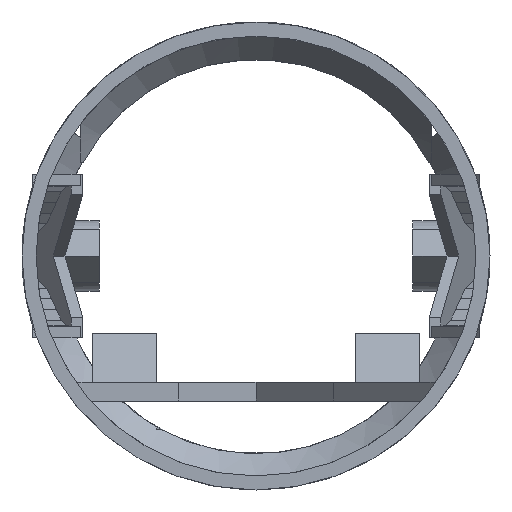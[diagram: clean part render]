
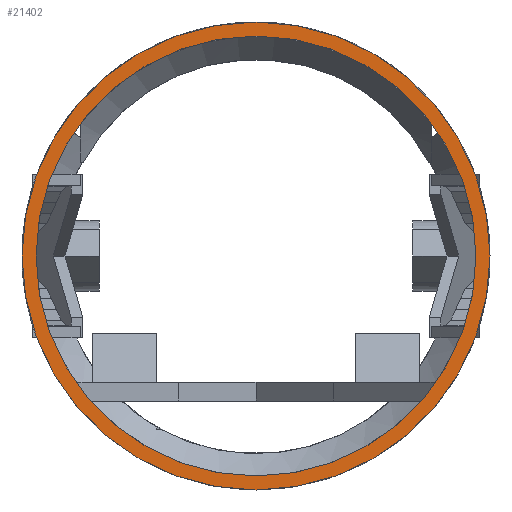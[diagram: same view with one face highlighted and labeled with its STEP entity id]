
A CAD part, left-side view. The second image highlights one B-rep face of the part: STEP entity #21402.
In plain terms, the highlighted planar face has unit normal (-1, 0, 0).
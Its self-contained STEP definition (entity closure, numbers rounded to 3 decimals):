
#21 = EDGE_CURVE('',#22,#22,#24,.T.);
#22 = VERTEX_POINT('',#23);
#23 = CARTESIAN_POINT('',(50.,20.,0.));
#24 = SURFACE_CURVE('',#25,(#30,#42),.PCURVE_S1.);
#25 = CIRCLE('',#26,20.);
#26 = AXIS2_PLACEMENT_3D('',#27,#28,#29);
#27 = CARTESIAN_POINT('',(50.,0.,0.));
#28 = DIRECTION('',(1.,0.,0.));
#29 = DIRECTION('',(-0.,1.,0.));
#30 = PCURVE('',#31,#36);
#31 = CYLINDRICAL_SURFACE('',#32,20.);
#32 = AXIS2_PLACEMENT_3D('',#33,#34,#35);
#33 = CARTESIAN_POINT('',(42.,0.,0.));
#34 = DIRECTION('',(1.,0.,0.));
#35 = DIRECTION('',(-0.,1.,0.));
#36 = DEFINITIONAL_REPRESENTATION('',(#37),#41);
#37 = LINE('',#38,#39);
#38 = CARTESIAN_POINT('',(0.,8.));
#39 = VECTOR('',#40,1.);
#40 = DIRECTION('',(1.,0.));
#41 = ( GEOMETRIC_REPRESENTATION_CONTEXT(2) 
PARAMETRIC_REPRESENTATION_CONTEXT() REPRESENTATION_CONTEXT('2D SPACE',''
  ) );
#42 = PCURVE('',#43,#48);
#43 = PLANE('',#44);
#44 = AXIS2_PLACEMENT_3D('',#45,#46,#47);
#45 = CARTESIAN_POINT('',(50.,-30.,-30.));
#46 = DIRECTION('',(1.,0.,-0.));
#47 = DIRECTION('',(0.,0.,1.));
#48 = DEFINITIONAL_REPRESENTATION('',(#49),#53);
#49 = CIRCLE('',#50,20.);
#50 = AXIS2_PLACEMENT_2D('',#51,#52);
#51 = CARTESIAN_POINT('',(30.,-30.));
#52 = DIRECTION('',(0.,-1.));
#53 = ( GEOMETRIC_REPRESENTATION_CONTEXT(2) 
PARAMETRIC_REPRESENTATION_CONTEXT() REPRESENTATION_CONTEXT('2D SPACE',''
  ) );
#3981 = CYLINDRICAL_SURFACE('',#3982,18.8);
#3982 = AXIS2_PLACEMENT_3D('',#3983,#3984,#3985);
#3983 = CARTESIAN_POINT('',(42.,0.,0.));
#3984 = DIRECTION('',(1.,0.,0.));
#3985 = DIRECTION('',(-0.,1.,0.));
#6262 = VERTEX_POINT('',#6263);
#6263 = CARTESIAN_POINT('',(50.,18.8,0.));
#6284 = EDGE_CURVE('',#6262,#6262,#6285,.T.);
#6285 = SURFACE_CURVE('',#6286,(#6291,#6298),.PCURVE_S1.);
#6286 = CIRCLE('',#6287,18.8);
#6287 = AXIS2_PLACEMENT_3D('',#6288,#6289,#6290);
#6288 = CARTESIAN_POINT('',(50.,0.,0.));
#6289 = DIRECTION('',(1.,0.,0.));
#6290 = DIRECTION('',(-0.,1.,0.));
#6291 = PCURVE('',#3981,#6292);
#6292 = DEFINITIONAL_REPRESENTATION('',(#6293),#6297);
#6293 = LINE('',#6294,#6295);
#6294 = CARTESIAN_POINT('',(0.,8.));
#6295 = VECTOR('',#6296,1.);
#6296 = DIRECTION('',(1.,0.));
#6297 = ( GEOMETRIC_REPRESENTATION_CONTEXT(2) 
PARAMETRIC_REPRESENTATION_CONTEXT() REPRESENTATION_CONTEXT('2D SPACE',''
  ) );
#6298 = PCURVE('',#43,#6299);
#6299 = DEFINITIONAL_REPRESENTATION('',(#6300),#6304);
#6300 = CIRCLE('',#6301,18.8);
#6301 = AXIS2_PLACEMENT_2D('',#6302,#6303);
#6302 = CARTESIAN_POINT('',(30.,-30.));
#6303 = DIRECTION('',(0.,-1.));
#6304 = ( GEOMETRIC_REPRESENTATION_CONTEXT(2) 
PARAMETRIC_REPRESENTATION_CONTEXT() REPRESENTATION_CONTEXT('2D SPACE',''
  ) );
#21402 = ADVANCED_FACE('',(#21403,#21406),#43,.F.);
#21403 = FACE_BOUND('',#21404,.F.);
#21404 = EDGE_LOOP('',(#21405));
#21405 = ORIENTED_EDGE('',*,*,#21,.T.);
#21406 = FACE_BOUND('',#21407,.F.);
#21407 = EDGE_LOOP('',(#21408));
#21408 = ORIENTED_EDGE('',*,*,#6284,.F.);
